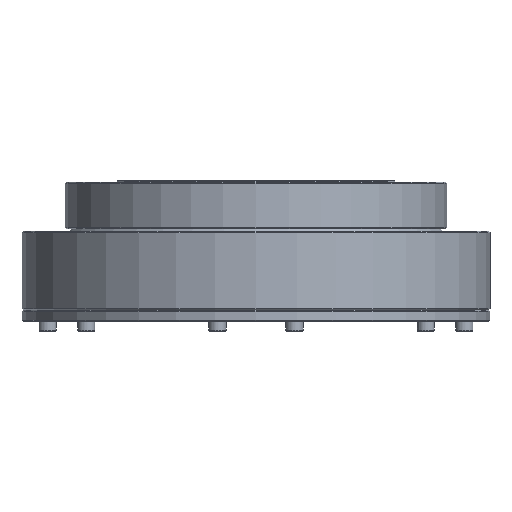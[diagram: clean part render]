
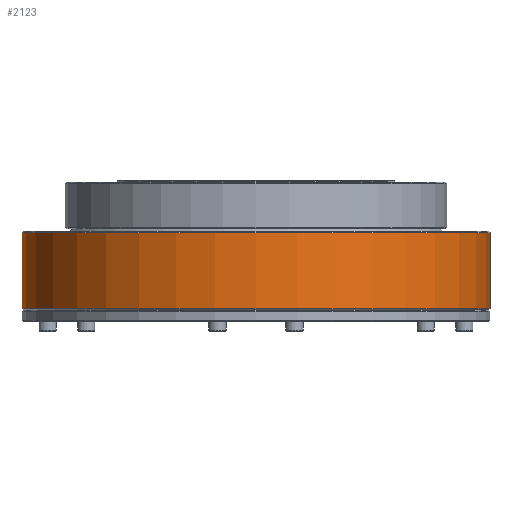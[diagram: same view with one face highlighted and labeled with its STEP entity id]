
A CAD part, front view. The second image highlights one B-rep face of the part: STEP entity #2123.
In plain terms, the highlighted cylindrical face has radius 95 mm (diameter 190 mm), a full revolution.
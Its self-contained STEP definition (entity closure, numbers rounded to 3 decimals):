
#2123=ADVANCED_FACE('',(#3082,#3083),#2458,.T.);
#2458=CYLINDRICAL_SURFACE('',#9997,95.);
#3082=FACE_BOUND('',#4147,.T.);
#3083=FACE_BOUND('',#4148,.T.);
#4147=EDGE_LOOP('',(#6029));
#4148=EDGE_LOOP('',(#6030));
#6029=ORIENTED_EDGE('',*,*,#8101,.T.);
#6030=ORIENTED_EDGE('',*,*,#8100,.F.);
#7119=VERTEX_POINT('',#16427);
#7120=VERTEX_POINT('',#16430);
#8100=EDGE_CURVE('',#7119,#7119,#8868,.T.);
#8101=EDGE_CURVE('',#7120,#7120,#8869,.T.);
#8868=CIRCLE('',#9994,95.);
#8869=CIRCLE('',#9996,95.);
#9994=AXIS2_PLACEMENT_3D('',#16426,#12424,#12425);
#9996=AXIS2_PLACEMENT_3D('',#16429,#12428,#12429);
#9997=AXIS2_PLACEMENT_3D('',#16431,#12430,#12431);
#12424=DIRECTION('',(-1.,0.,0.));
#12425=DIRECTION('',(0.,0.,1.));
#12428=DIRECTION('',(-1.,0.,0.));
#12429=DIRECTION('',(0.,0.,1.));
#12430=DIRECTION('',(-1.,0.,0.));
#12431=DIRECTION('',(0.,0.,-1.));
#16426=CARTESIAN_POINT('',(10.003,0.,0.));
#16427=CARTESIAN_POINT('',(10.003,0.,95.));
#16429=CARTESIAN_POINT('',(41.003,0.,0.));
#16430=CARTESIAN_POINT('',(41.003,0.,95.));
#16431=CARTESIAN_POINT('',(52.556,0.,0.));
